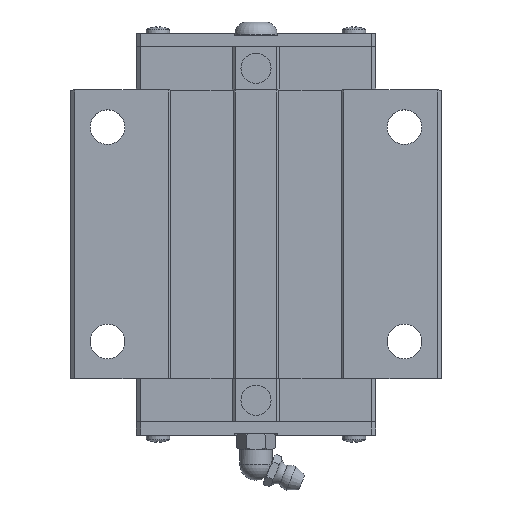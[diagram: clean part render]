
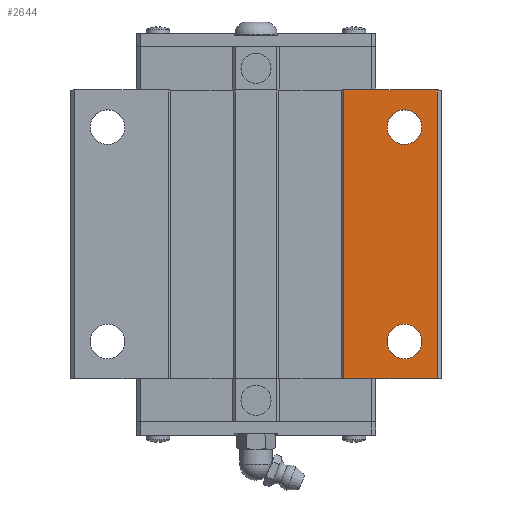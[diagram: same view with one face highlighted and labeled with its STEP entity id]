
A CAD part, top view. The second image highlights one B-rep face of the part: STEP entity #2644.
In plain terms, the highlighted planar face has unit normal (0, 0, 1).
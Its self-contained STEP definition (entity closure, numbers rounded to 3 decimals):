
#2644=ADVANCED_FACE('',(#5004,#5006,#5008),#5010,.T.);
#5004=FACE_BOUND('',#5005,.T.);
#5005=EDGE_LOOP('',(#6957,#6958,#6959,#6960));
#5006=FACE_BOUND('',#5007,.T.);
#5007=EDGE_LOOP('',(#6961));
#5008=FACE_BOUND('',#5009,.T.);
#5009=EDGE_LOOP('',(#6962));
#5010=PLANE('',#5011);
#5011=AXIS2_PLACEMENT_3D('',#5012,#5013,#5014);
#5012=CARTESIAN_POINT('',(0.,83.701,42.));
#5013=DIRECTION('',(0.,0.,1.));
#5014=DIRECTION('',(-1.,0.,0.));
#6957=ORIENTED_EDGE('',*,*,#8077,.T.);
#6958=ORIENTED_EDGE('',*,*,#8020,.T.);
#6959=ORIENTED_EDGE('',*,*,#8080,.F.);
#6960=ORIENTED_EDGE('',*,*,#8064,.T.);
#6961=ORIENTED_EDGE('',*,*,#7276,.T.);
#6962=ORIENTED_EDGE('',*,*,#7278,.T.);
#7276=EDGE_CURVE('',#8189,#8189,#8190,.T.);
#7278=EDGE_CURVE('',#8193,#8193,#8194,.T.);
#8020=EDGE_CURVE('',#9444,#9442,#9445,.T.);
#8064=EDGE_CURVE('',#9524,#9522,#9525,.T.);
#8077=EDGE_CURVE('',#9522,#9444,#9542,.T.);
#8080=EDGE_CURVE('',#9524,#9442,#9545,.T.);
#8189=VERTEX_POINT('',#10018);
#8190=CIRCLE('',#10019,4.188);
#8193=VERTEX_POINT('',#10028);
#8194=CIRCLE('',#10029,4.188);
#9442=VERTEX_POINT('',#15954);
#9444=VERTEX_POINT('',#15958);
#9445=LINE('',#15959,#15960);
#9522=VERTEX_POINT('',#16122);
#9524=VERTEX_POINT('',#16126);
#9525=LINE('',#16127,#16128);
#9542=LINE('',#16170,#16171);
#9545=LINE('',#16179,#16180);
#10018=CARTESIAN_POINT('',(31.812,22.701,42.));
#10019=AXIS2_PLACEMENT_3D('',#10020,#10021,#10022);
#10020=CARTESIAN_POINT('',(36.,22.701,42.));
#10021=DIRECTION('',(-0.,-0.,-1.));
#10022=DIRECTION('',(-1.,0.,0.));
#10028=CARTESIAN_POINT('',(40.188,74.701,42.));
#10029=AXIS2_PLACEMENT_3D('',#10030,#10031,#10032);
#10030=CARTESIAN_POINT('',(36.,74.701,42.));
#10031=DIRECTION('',(-0.,-0.,-1.));
#10032=DIRECTION('',(1.,0.,0.));
#15954=CARTESIAN_POINT('',(44.,13.701,42.));
#15958=CARTESIAN_POINT('',(21.25,13.701,42.));
#15959=CARTESIAN_POINT('',(21.25,13.701,42.));
#15960=VECTOR('',#15961,1.);
#15961=DIRECTION('',(1.,0.,0.));
#16122=CARTESIAN_POINT('',(21.25,83.701,42.));
#16126=CARTESIAN_POINT('',(44.,83.701,42.));
#16127=CARTESIAN_POINT('',(44.,83.701,42.));
#16128=VECTOR('',#16129,1.);
#16129=DIRECTION('',(-1.,0.,0.));
#16170=CARTESIAN_POINT('',(21.25,83.701,42.));
#16171=VECTOR('',#16172,1.);
#16172=DIRECTION('',(0.,-1.,0.));
#16179=CARTESIAN_POINT('',(44.,83.701,42.));
#16180=VECTOR('',#16181,1.);
#16181=DIRECTION('',(0.,-1.,0.));
